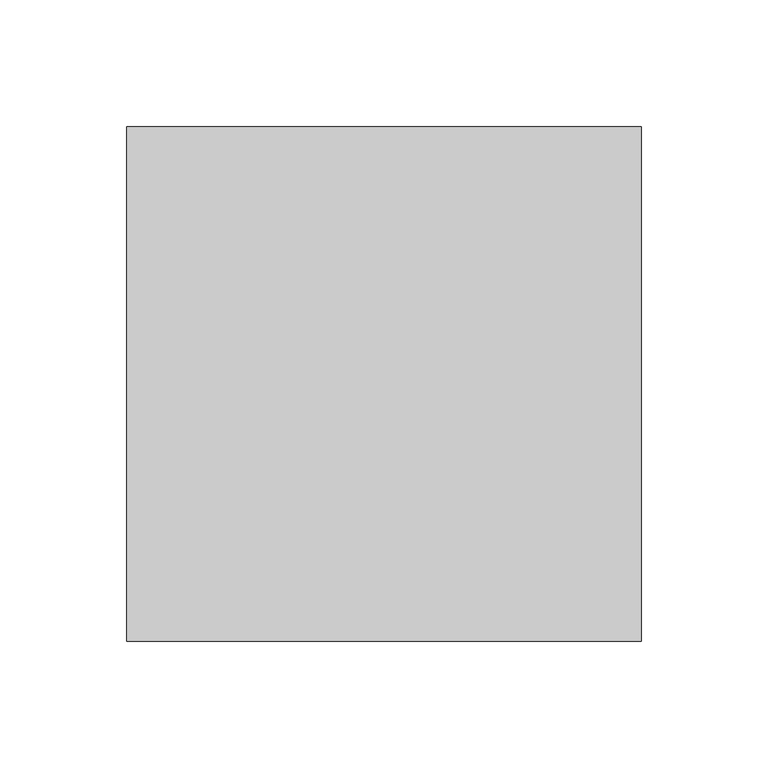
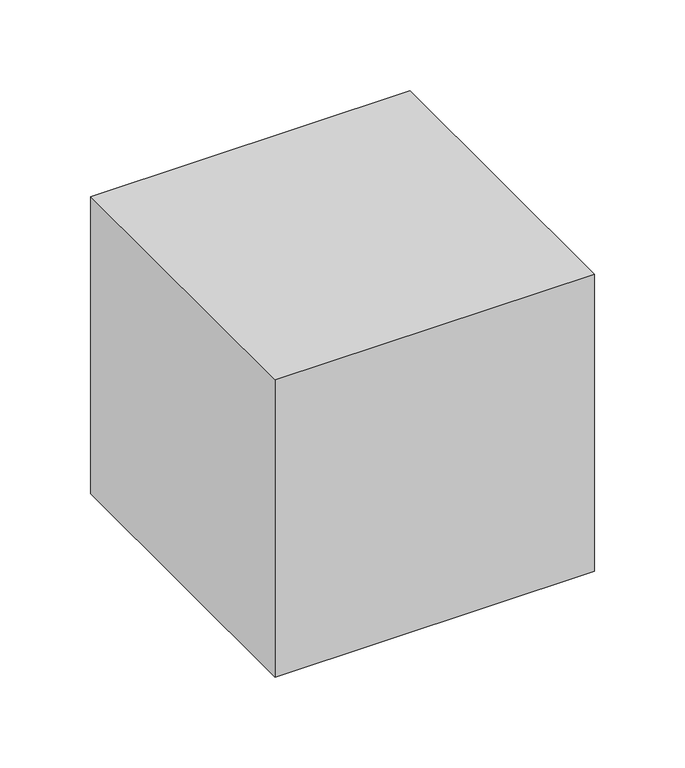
"""IFC4 building model written with IfcOpenShell, lengths in millimetres: proxy geometry, Placeholder_Polyseam : Placeholder_Polyseam."""

from ifc_helpers import new_model, si_unit, origin, origin_with_axes, place, context, project, spatial, polyline, outline, extrude, source, transform, mapped, element, save


def generic_models_555014e6(model_context):
    return source(origin(), model_context, "Body", "SweptSolid", [
        extrude(outline(polyline([(-101.6, 101.6), (101.6, 101.6), (101.6, -101.6), (-101.6, -101.6), (-101.6, 101.6)])), origin_with_axes(), (0.0, 0.0, 1.0), 200.0),
    ])


if __name__ == "__main__":
    model = new_model("IFC4")
    model_context = context("Model", 3, world=origin())
    ifc_project = project(units=[si_unit("LENGTHUNIT", "METRE", prefix="MILLI")], contexts=[model_context])
    site = spatial("IfcSite", under=ifc_project)
    building = spatial("IfcBuilding", under=site)
    placement = place(None, origin())
    generic_models_shape = generic_models_555014e6(model_context)
    element("IfcBuildingElementProxy", 1, Name="Placeholder_Polyseam : Placeholder_Polyseam", ObjectType="Placeholder_Polyseam : Placeholder_Polyseam", at=placement, inside=building, context=model_context, shape_type="MappedRepresentation", body=[
        mapped(generic_models_shape, transform((0.0, 0.0, 0.0), x_axis=(1.0, 0.0, 0.0), y_axis=(0.0, 1.0, 0.0), z_axis=(0.0, 0.0, 1.0))),
    ])
    save(model, "model.ifc")
